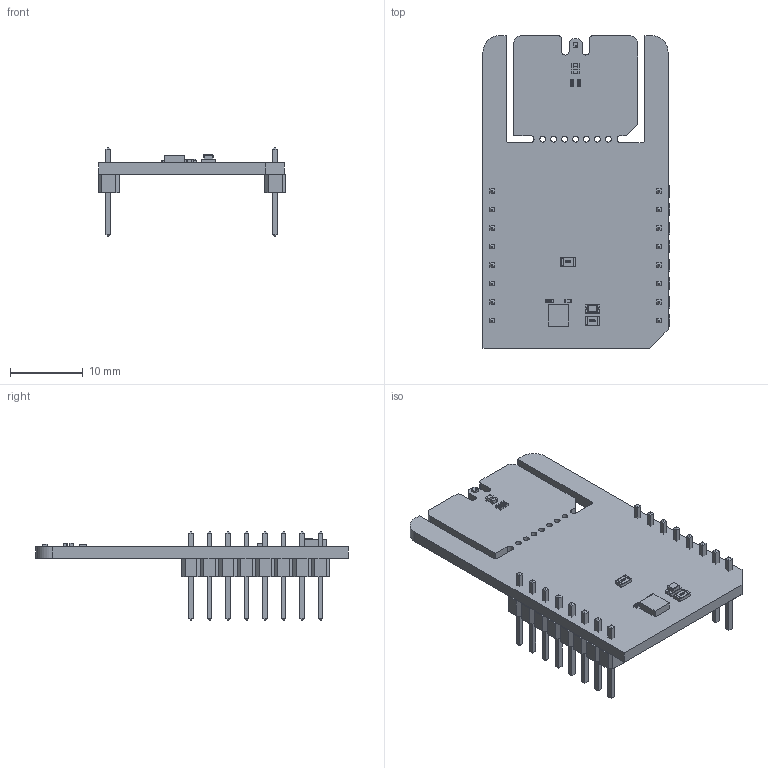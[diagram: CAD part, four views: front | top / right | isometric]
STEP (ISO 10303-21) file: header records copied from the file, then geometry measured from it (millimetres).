
FILE_DESCRIPTION(('Open CASCADE Model'),'2;1');
FILE_NAME('Open CASCADE Shape Model','2025-11-26T15:21:52',('Author'),( 'Open CASCADE'),'Open CASCADE STEP processor 7.5','Open CASCADE 7.5' ,'Unknown');
FILE_SCHEMA(('AUTOMOTIVE_DESIGN { 1 0 10303 214 1 1 1 1 }'));
Length unit declared in the file: millimetre
Products named in the file (31): PCB; Board; Open CASCADE STEP translator 7.5 1.1.1; U2; 7836982656; Extruded; 7056183776; Cylinder; R4; User Library-R_0402; R3; C3; User Library-SMD CAPACITOR0402; C2; C1; LD1; led_0805_green; R1; User Library-R_0805; R2; U1; 6967316736; MBD1; Header 1x8; Free-Models; 1240637040; User_Library-PinHeaderX5-1_PinHeaderX5_Body_1; User_Library-PinHeaderX5-1_PinHeaderX5_Pins_1; JP1
Assembly tree (37 placements, depth 7):
  PCB
    Board
      Open CASCADE STEP translator 7.5 1.1.1
    U2
      7836982656
        Extruded
      7056183776
        Cylinder
    R4
      User Library-R_0402
    R3
      User Library-R_0402
    C3
      User Library-SMD CAPACITOR0402
    C2
      User Library-SMD CAPACITOR0402
    C1
      User Library-SMD CAPACITOR0402
    LD1
      led_0805_green
    R1
      User Library-R_0805
    R2
      User Library-R_0402
    U1
      6967316736
        Extruded
    MBD1
      Header 1x8  x2
        PCB
          Free-Models
            1240637040  x2
              User_Library-PinHeaderX5-1_PinHeaderX5_Body_1
              User_Library-PinHeaderX5-1_PinHeaderX5_Pins_1
    JP1
      User Library-R_0805
Bounding box: 25.78 x 42.93 x 12.19 mm (x, y, z)
Volume: 2129.9 mm3; surface area: 3832.7 mm2
Topology: 36 solids, 36 shells, 1146 faces, 2871 edges, 1814 vertices
Faces by surface type: plane 876, bspline 162, cylinder 80, sphere 28
Full cylindrical faces by diameter (mm): 0.2 x1, 0.8 x7
Entity records: 20426 total; most frequent: CARTESIAN_POINT 6733, ORIENTED_EDGE 2248, DIRECTION 1930, EDGE_CURVE 1124, LINE 888, VECTOR 888, VERTEX_POINT 724, AXIS2_PLACEMENT_3D 521
